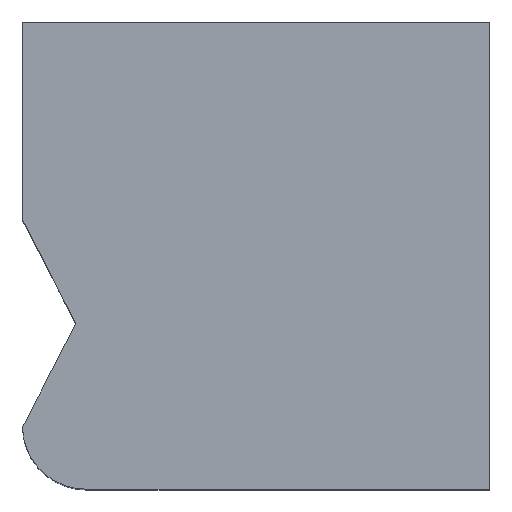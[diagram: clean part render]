
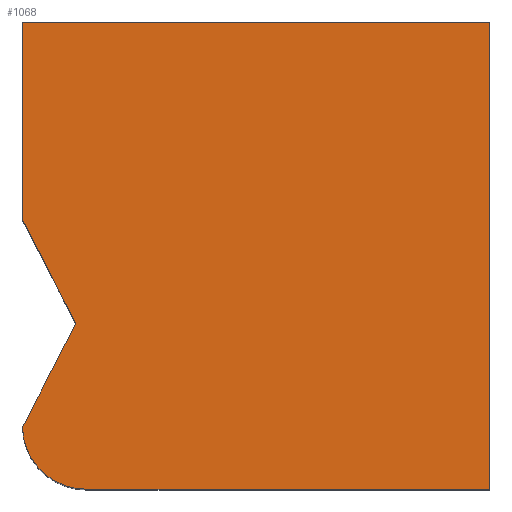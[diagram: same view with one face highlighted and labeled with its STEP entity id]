
A CAD part, top view. The second image highlights one B-rep face of the part: STEP entity #1068.
In plain terms, the highlighted planar face has unit normal (0, 0, 1).
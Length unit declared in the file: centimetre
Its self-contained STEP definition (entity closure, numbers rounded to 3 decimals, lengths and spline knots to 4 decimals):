
#2 = EDGE_CURVE ( 'NONE', #132, #626, #1492, .T. ) ;
#26 = VERTEX_POINT ( 'NONE', #677 ) ;
#79 = CARTESIAN_POINT ( 'NONE',  ( 0., 0., 1000. ) ) ;
#94 = VECTOR ( 'NONE', #1270, 100. ) ;
#115 = CARTESIAN_POINT ( 'NONE',  ( 0.0424, 132.4475, 1000. ) ) ;
#129 = DIRECTION ( 'NONE',  ( 0., 0., 1. ) ) ;
#132 = VERTEX_POINT ( 'NONE', #115 ) ;
#167 = ORIENTED_EDGE ( 'NONE', *, *, #183, .T. ) ;
#170 = EDGE_CURVE ( 'NONE', #273, #1036, #1141, .T. ) ;
#175 = VECTOR ( 'NONE', #320, 100. ) ;
#183 = EDGE_CURVE ( 'NONE', #26, #273, #326, .T. ) ;
#273 = VERTEX_POINT ( 'NONE', #965 ) ;
#288 = EDGE_CURVE ( 'NONE', #132, #733, #890, .T. ) ;
#320 = DIRECTION ( 'NONE',  ( 0., -1., 0. ) ) ;
#326 = LINE ( 'NONE', #937, #1356 ) ;
#329 = DIRECTION ( 'NONE',  ( -0.457, 0.889, 0. ) ) ;
#359 = CARTESIAN_POINT ( 'NONE',  ( 0., 577.3202, 1000. ) ) ;
#363 = DIRECTION ( 'NONE',  ( 1., 0., 0. ) ) ;
#364 = CARTESIAN_POINT ( 'NONE',  ( 114.4608, 354.8426, 1000. ) ) ;
#439 = ORIENTED_EDGE ( 'NONE', *, *, #1154, .T. ) ;
#460 = CARTESIAN_POINT ( 'NONE',  ( 0., 1000., 1000. ) ) ;
#464 = EDGE_CURVE ( 'NONE', #733, #1177, #632, .T. ) ;
#511 = CARTESIAN_POINT ( 'NONE',  ( 0., 0., 1000. ) ) ;
#515 = CARTESIAN_POINT ( 'NONE',  ( 135.8417, 0., 1000. ) ) ;
#534 = AXIS2_PLACEMENT_3D ( 'NONE', #79, #1142, #680 ) ;
#556 = ORIENTED_EDGE ( 'NONE', *, *, #2, .F. ) ;
#562 = CARTESIAN_POINT ( 'NONE',  ( 1000., 1000., 1000. ) ) ;
#590 = FACE_OUTER_BOUND ( 'NONE', #740, .T. ) ;
#608 = ORIENTED_EDGE ( 'NONE', *, *, #464, .T. ) ;
#609 = VECTOR ( 'NONE', #619, 100. ) ;
#619 = DIRECTION ( 'NONE',  ( 1., 0., 0. ) ) ;
#626 = VERTEX_POINT ( 'NONE', #364 ) ;
#632 = LINE ( 'NONE', #511, #609 ) ;
#645 = CARTESIAN_POINT ( 'NONE',  ( 114.4608, 354.8426, 1000. ) ) ;
#677 = CARTESIAN_POINT ( 'NONE',  ( 1000., 1000., 1000. ) ) ;
#680 = DIRECTION ( 'NONE',  ( 1., 0., 0. ) ) ;
#681 = LINE ( 'NONE', #645, #1418 ) ;
#733 = VERTEX_POINT ( 'NONE', #515 ) ;
#740 = EDGE_LOOP ( 'NONE', ( #905, #556, #1056, #608, #439, #167, #839 ) ) ;
#839 = ORIENTED_EDGE ( 'NONE', *, *, #170, .T. ) ;
#890 = CIRCLE ( 'NONE', #1505, 135.8417 ) ;
#905 = ORIENTED_EDGE ( 'NONE', *, *, #987, .F. ) ;
#937 = CARTESIAN_POINT ( 'NONE',  ( 0., 1000., 1000. ) ) ;
#965 = CARTESIAN_POINT ( 'NONE',  ( 0., 1000., 1000. ) ) ;
#987 = EDGE_CURVE ( 'NONE', #626, #1036, #681, .T. ) ;
#1033 = PLANE ( 'NONE',  #534 ) ;
#1036 = VERTEX_POINT ( 'NONE', #359 ) ;
#1051 = DIRECTION ( 'NONE',  ( -1., 0., 0. ) ) ;
#1056 = ORIENTED_EDGE ( 'NONE', *, *, #288, .T. ) ;
#1057 = VECTOR ( 'NONE', #1502, 100. ) ;
#1058 = CARTESIAN_POINT ( 'NONE',  ( 135.8417, 135.8417, 1000. ) ) ;
#1068 = ADVANCED_FACE ( 'NONE', ( #590 ), #1033, .T. ) ;
#1141 = LINE ( 'NONE', #460, #175 ) ;
#1142 = DIRECTION ( 'NONE',  ( 0., 0., 1. ) ) ;
#1154 = EDGE_CURVE ( 'NONE', #1177, #26, #1261, .T. ) ;
#1177 = VERTEX_POINT ( 'NONE', #1495 ) ;
#1260 = CARTESIAN_POINT ( 'NONE',  ( 0., 132.3651, 1000. ) ) ;
#1261 = LINE ( 'NONE', #562, #1057 ) ;
#1270 = DIRECTION ( 'NONE',  ( 0.457, 0.889, 0. ) ) ;
#1356 = VECTOR ( 'NONE', #1051, 100. ) ;
#1418 = VECTOR ( 'NONE', #329, 100. ) ;
#1492 = LINE ( 'NONE', #1260, #94 ) ;
#1495 = CARTESIAN_POINT ( 'NONE',  ( 1000., 0., 1000. ) ) ;
#1502 = DIRECTION ( 'NONE',  ( 0., 1., 0. ) ) ;
#1505 = AXIS2_PLACEMENT_3D ( 'NONE', #1058, #129, #363 ) ;
